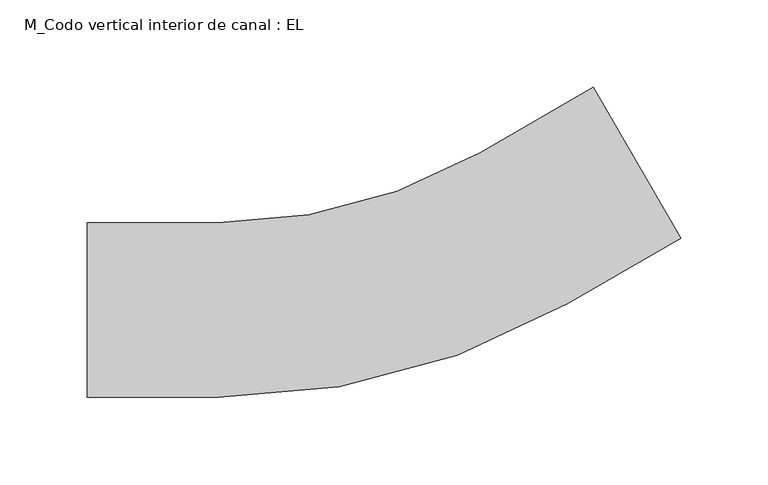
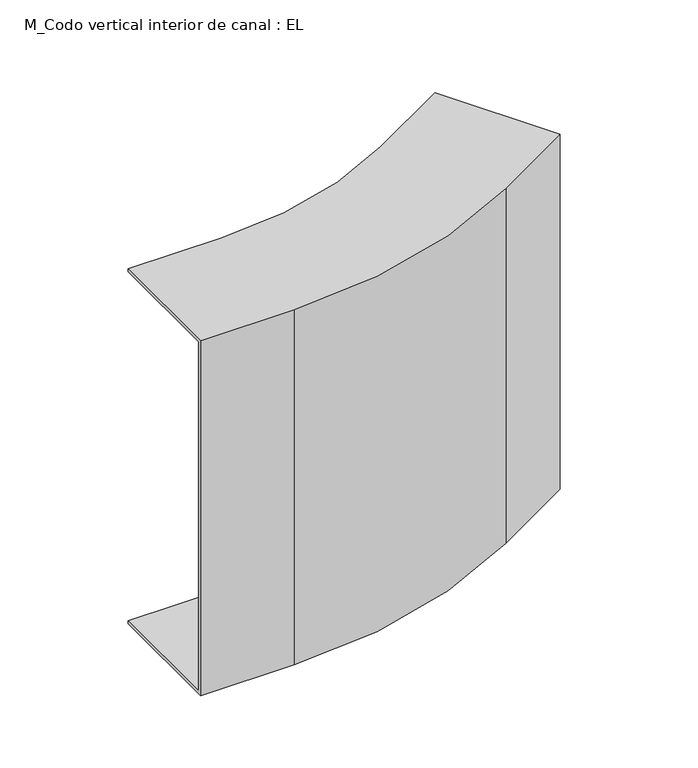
"""IFC4 building model written with IfcOpenShell, lengths in millimetres: cable carrier fitting geometry, M_Codo vertical interior de canal : EL."""

from ifc_helpers import new_model, si_unit, frame, origin, place, context, project, spatial, polyline, circle_curve, source, transform, mapped, element, save
from ifc_brep_helpers import plane_surface, cylinder_surface, revolved_surface, advanced_brep


def m_codo_vertical_interior_de_canal_el_3f65be50(model_context):
    return source(origin(), model_context, "Body", "AdvancedBrep", [
        advanced_brep(
        [(-168.7822174, 50.0, 150.0), (-168.7822174, 50.0, 147.46), (-168.7822174, -47.46, 147.46), (-168.7822174, -47.46, -147.46), (-168.7822174, 50.0, -147.46), (-168.7822174, 50.0, -150.0), (-168.7822174, -50.0, -150.0), (-168.7822174, -50.0, 150.0), (121.1696879, 127.6923789, 150.0), (171.1696879, 41.0898385, 150.0), (171.1696879, 41.0898385, -150.0), (121.1696879, 127.6923789, -150.0), (121.1696879, 127.6923789, -147.46), (169.8996879, 43.289543, -147.46), (169.8996879, 43.289543, 147.46), (121.1696879, 127.6923789, 147.46), (-93.7822174, -50.0, 150.0), (106.2177826, 3.5898385, 150.0), (56.2177826, 90.1923789, 150.0), (-93.7822174, 50.0, 150.0), (-93.7822174, -50.0, -150.0), (-93.7822174, 50.0, -150.0), (56.2177826, 90.1923789, -150.0), (106.2177826, 3.5898385, -150.0), (-93.7822174, 50.0, -147.46), (-93.7822174, -47.46, -147.46), (104.9477827, 5.789543, -147.46), (56.2177826, 90.1923789, -147.46), (-93.7822174, -47.46, 147.46), (-93.7822174, 50.0, 147.46), (56.2177826, 90.1923789, 147.46), (104.9477827, 5.789543, 147.46)],
        [
            (0, 1),
            (1, 2),
            (2, 3),
            (3, 4),
            (4, 5),
            (5, 6),
            (6, 7),
            (7, 0),
            (8, 9),
            (9, 10),
            (10, 11),
            (11, 12),
            (12, 13),
            (13, 14),
            (14, 15),
            (15, 8),
            (7, 16),
            (16, 17, circle_curve(frame((-93.7822174, 350.0, 150.0), z_axis=(0.0, 0.0, 1.0), x_axis=(0.0, -1.0, 0.0)), 400.0)),
            (17, 9),
            (8, 18),
            (18, 19, circle_curve(frame((-93.7822174, 350.0, 150.0), z_axis=(0.0, 0.0, -1.0), x_axis=(0.0, -1.0, 0.0)), 300.0)),
            (19, 0),
            (6, 20),
            (20, 16),
            (5, 21),
            (21, 22, circle_curve(frame((-93.7822174, 350.0, -150.0), z_axis=(0.0, 0.0, 1.0), x_axis=(0.0, -1.0, 0.0)), 300.0)),
            (22, 11),
            (10, 23),
            (23, 20, circle_curve(frame((-93.7822174, 350.0, -150.0), z_axis=(0.0, 0.0, -1.0), x_axis=(0.0, -1.0, 0.0)), 400.0)),
            (4, 24),
            (24, 21),
            (3, 25),
            (25, 26, circle_curve(frame((-93.7822174, 350.0, -147.46), z_axis=(0.0, 0.0, 1.0), x_axis=(0.0, -1.0, 0.0)), 397.46)),
            (26, 13),
            (12, 27),
            (27, 24, circle_curve(frame((-93.7822174, 350.0, -147.46), z_axis=(0.0, 0.0, -1.0), x_axis=(0.0, -1.0, 0.0)), 300.0)),
            (2, 28),
            (28, 25),
            (1, 29),
            (29, 30, circle_curve(frame((-93.7822174, 350.0, 147.46), z_axis=(0.0, 0.0, 1.0), x_axis=(0.0, -1.0, 0.0)), 300.0)),
            (30, 15),
            (14, 31),
            (31, 28, circle_curve(frame((-93.7822174, 350.0, 147.46), z_axis=(0.0, 0.0, -1.0), x_axis=(0.0, -1.0, 0.0)), 397.46)),
            (19, 29),
            (23, 17),
            (27, 22),
            (31, 26),
            (18, 30),
        ],
        [
            plane_surface(frame((-168.7822174, 0.0, 0.0), z_axis=(-1.0, 0.0, 0.0), x_axis=(0.0, 0.0, 1.0))),
            plane_surface(frame((146.1696879, 84.3911087, 0.0), z_axis=(0.8660254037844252, 0.5000000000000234, 0.0), x_axis=(0.0, 0.0, 1.0))),
            plane_surface(frame((-168.7822174, -50.0, 150.0), z_axis=(0.0, 0.0, 1.0), x_axis=(1.0, 0.0, 0.0))),
            plane_surface(frame((-168.7822174, -50.0, -150.0), z_axis=(0.0, -1.0, 0.0), x_axis=(1.0, 0.0, 0.0))),
            plane_surface(frame((-168.7822174, 50.0, -150.0), z_axis=(0.0, 0.0, -1.0), x_axis=(1.0, 0.0, 0.0))),
            plane_surface(frame((-168.7822174, 50.0, -147.46), z_axis=(0.0, 1.0, 0.0), x_axis=(1.0, 0.0, 0.0))),
            plane_surface(frame((-168.7822174, -47.46, -147.46), z_axis=(0.0, 0.0, 1.0), x_axis=(1.0, 0.0, 0.0))),
            plane_surface(frame((-168.7822174, -47.46, 147.46), z_axis=(0.0, 1.0, 0.0), x_axis=(1.0, 0.0, 0.0))),
            plane_surface(frame((-168.7822174, 50.0, 147.46), z_axis=(0.0, 0.0, -1.0), x_axis=(1.0, 0.0, 0.0))),
            plane_surface(frame((-168.7822174, 50.0, 150.0), z_axis=(0.0, 1.0, 0.0), x_axis=(1.0, 0.0, 0.0))),
            cylinder_surface(frame((-93.7822174, 350.0, 0.0), z_axis=(0.0, 0.0, 1.0), x_axis=(0.0, -1.0, 0.0)), 400.0),
            revolved_surface(polyline([(-93.7822174, 50.0, -147.46), (-93.7822174, 50.0, -150.0)]), (-93.7822174, 350.0, 0.0), (0.0, 0.0, 1.0)),
            revolved_surface(polyline([(-93.7822174, -47.45999999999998, 147.46), (-93.7822174, -47.45999999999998, -147.46)]), (-93.7822174, 350.0, 0.0), (0.0, 0.0, 1.0)),
            revolved_surface(polyline([(-93.7822174, 50.0, 150.0), (-93.7822174, 50.0, 147.46)]), (-93.7822174, 350.0, 0.0), (0.0, 0.0, 1.0)),
            plane_surface(frame((106.2177826, 3.5898385, -150.0), z_axis=(0.5000000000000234, -0.8660254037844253, 0.0), x_axis=(0.8660254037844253, 0.5000000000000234, 0.0))),
            plane_surface(frame((56.2177826, 90.1923789, -147.46), z_axis=(-0.5000000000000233, 0.8660254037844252, 0.0), x_axis=(0.8660254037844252, 0.5000000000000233, 0.0))),
            plane_surface(frame((104.9477827, 5.789543, 147.46), z_axis=(-0.5000000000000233, 0.8660254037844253, 0.0), x_axis=(0.8660254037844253, 0.5000000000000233, 0.0))),
            plane_surface(frame((56.2177826, 90.1923789, 150.0), z_axis=(-0.5000000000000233, 0.8660254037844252, 0.0), x_axis=(0.8660254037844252, 0.5000000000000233, 0.0))),
        ],
        [
            (0, [[1, 2, 3, 4, 5, 6, 7, 8]]),
            (1, [[9, 10, 11, 12, 13, 14, 15, 16]]),
            (2, [[-8, 17, 18, 19, -9, 20, 21, 22]]),
            (3, [[-7, 23, 24, -17]]),
            (4, [[-6, 25, 26, 27, -11, 28, 29, -23]]),
            (5, [[-5, 30, 31, -25]]),
            (6, [[-4, 32, 33, 34, -13, 35, 36, -30]]),
            (7, [[-3, 37, 38, -32]]),
            (8, [[-2, 39, 40, 41, -15, 42, 43, -37]]),
            (9, [[-1, -22, 44, -39]]),
            (10, [[-18, -24, -29, 45]]),
            (11, [[-26, -31, -36, 46]]),
            (12, [[-33, -38, -43, 47]]),
            (13, [[-40, -44, -21, 48]]),
            (14, [[-45, -28, -10, -19]]),
            (15, [[-46, -35, -12, -27]]),
            (16, [[-47, -42, -14, -34]]),
            (17, [[-48, -20, -16, -41]]),
        ],
    ),
    ])


if __name__ == "__main__":
    model = new_model("IFC4")
    model_context = context("Model", 3, world=origin())
    ifc_project = project(units=[si_unit("LENGTHUNIT", "METRE", prefix="MILLI")], contexts=[model_context])
    site = spatial("IfcSite", under=ifc_project)
    building = spatial("IfcBuilding", under=site)
    placement = place(None, origin())
    m_codo_vertical_interior_de_canal_el_shape = m_codo_vertical_interior_de_canal_el_3f65be50(model_context)
    element("IfcCableCarrierFitting", 1, ObjectType="M_Codo vertical interior de canal : EL", at=placement, inside=building, context=model_context, shape_type="MappedRepresentation", body=[
        mapped(m_codo_vertical_interior_de_canal_el_shape, transform((0.0, 0.0, 0.0), x_axis=(1.0, 0.0, 0.0), y_axis=(0.0, 1.0, 0.0), z_axis=(0.0, 0.0, 1.0))),
    ])
    save(model, "model.ifc")
